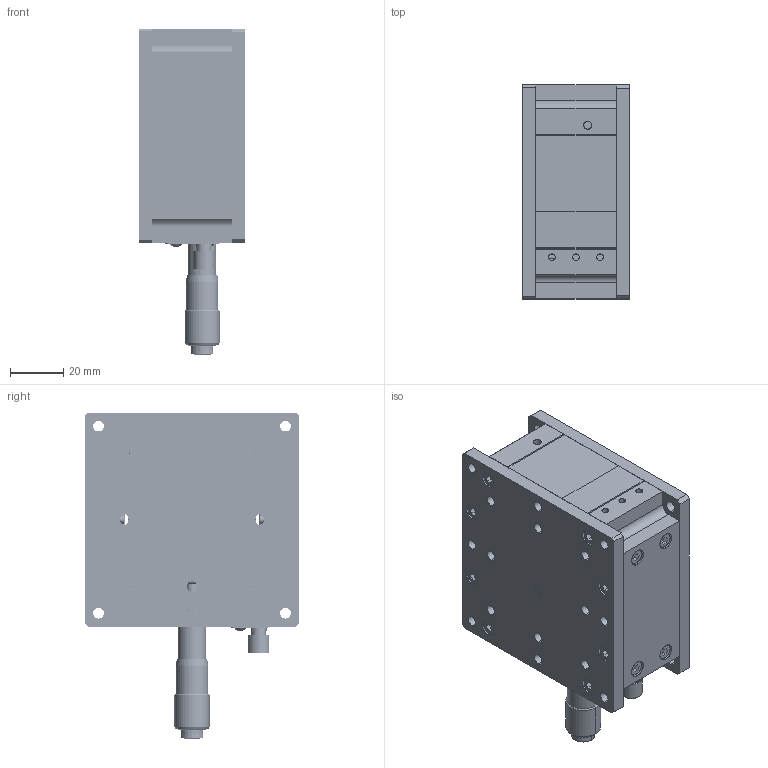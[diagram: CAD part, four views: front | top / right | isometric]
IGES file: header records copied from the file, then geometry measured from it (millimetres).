
Start section: SolidWorks IGES file using analytic representation for surfaces
Global section: file name: E:\0产品2d3d图纸-20180629\0-3种格式文件\产品图纸3d\07PHL(Z轴升降)\PHL-883.IGS; native system: SolidWorks 2015; preprocessor: SolidWorks 2015; author: Administrator; date: 180724.135505; units: millimetre
Bounding box: 40 x 80 x 122.14 mm (x, y, z)
Surface area: 88429.6 mm2 (no closed solid volume)
Topology: 0 solids, 0 shells, 1322 faces, 23090 edges, 23078 vertices
Faces by surface type: bspline 695, revolution 627
